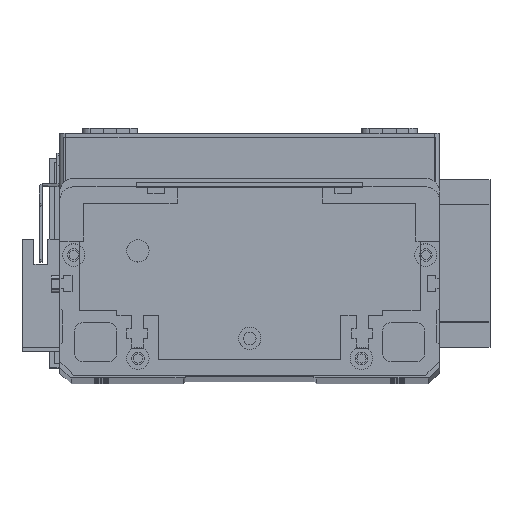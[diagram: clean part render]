
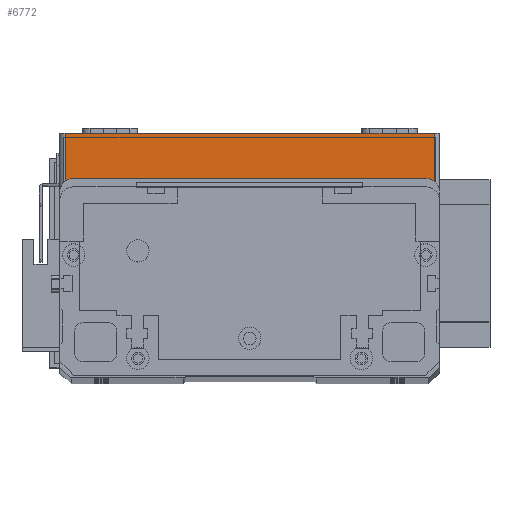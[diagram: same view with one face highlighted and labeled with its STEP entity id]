
A CAD part, top view. The second image highlights one B-rep face of the part: STEP entity #6772.
In plain terms, the highlighted planar face has unit normal (0, 0, 1) as drawn and (0, -1, 0) by its records, which use the part's own axes.
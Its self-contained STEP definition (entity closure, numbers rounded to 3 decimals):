
#947 = CARTESIAN_POINT ( 'NONE',  ( 0., 0., 0. ) ) ;
#1774 = VERTEX_POINT ( 'NONE', #18313 ) ;
#1813 = PLANE ( 'NONE',  #2132 ) ;
#2132 = AXIS2_PLACEMENT_3D ( 'NONE', #6298, #4123, #19907 ) ;
#2837 = CARTESIAN_POINT ( 'NONE',  ( 2., 0., 19.5 ) ) ;
#3972 = EDGE_CURVE ( 'NONE', #1774, #21245, #18675, .T. ) ;
#4123 = DIRECTION ( 'NONE',  ( 0., 1., 0. ) ) ;
#4269 = VERTEX_POINT ( 'NONE', #13280 ) ;
#4313 = EDGE_CURVE ( 'NONE', #14702, #1774, #28828, .T. ) ;
#4873 = CARTESIAN_POINT ( 'NONE',  ( 0., 0., 19.5 ) ) ;
#6022 = LINE ( 'NONE', #13290, #11303 ) ;
#6128 = ORIENTED_EDGE ( 'NONE', *, *, #3972, .T. ) ;
#6298 = CARTESIAN_POINT ( 'NONE',  ( 0., 0., 19.5 ) ) ;
#6772 = ADVANCED_FACE ( 'NONE', ( #21782 ), #1813, .F. ) ;
#10149 = ORIENTED_EDGE ( 'NONE', *, *, #4313, .T. ) ;
#11189 = EDGE_CURVE ( 'NONE', #21245, #4269, #6022, .T. ) ;
#11303 = VECTOR ( 'NONE', #15573, 1000. ) ;
#12662 = VECTOR ( 'NONE', #16763, 1000. ) ;
#13280 = CARTESIAN_POINT ( 'NONE',  ( 134., 0., 19.5 ) ) ;
#13290 = CARTESIAN_POINT ( 'NONE',  ( 134., 0., 19.5 ) ) ;
#13463 = ORIENTED_EDGE ( 'NONE', *, *, #18219, .F. ) ;
#14438 = CARTESIAN_POINT ( 'NONE',  ( 134., 0., 0. ) ) ;
#14702 = VERTEX_POINT ( 'NONE', #2837 ) ;
#15573 = DIRECTION ( 'NONE',  ( 0., 0., 1. ) ) ;
#15758 = DIRECTION ( 'NONE',  ( 0., 0., -1. ) ) ;
#16763 = DIRECTION ( 'NONE',  ( 1., 0., 0. ) ) ;
#17916 = CARTESIAN_POINT ( 'NONE',  ( 2., 0., 19.5 ) ) ;
#18219 = EDGE_CURVE ( 'NONE', #14702, #4269, #27068, .T. ) ;
#18313 = CARTESIAN_POINT ( 'NONE',  ( 2., 0., 0. ) ) ;
#18675 = LINE ( 'NONE', #947, #12662 ) ;
#19907 = DIRECTION ( 'NONE',  ( 0., 0., 1. ) ) ;
#21134 = VECTOR ( 'NONE', #25159, 1000. ) ;
#21245 = VERTEX_POINT ( 'NONE', #14438 ) ;
#21473 = VECTOR ( 'NONE', #15758, 1000. ) ;
#21782 = FACE_OUTER_BOUND ( 'NONE', #24133, .T. ) ;
#23867 = ORIENTED_EDGE ( 'NONE', *, *, #11189, .T. ) ;
#24133 = EDGE_LOOP ( 'NONE', ( #13463, #10149, #6128, #23867 ) ) ;
#25159 = DIRECTION ( 'NONE',  ( 1., 0., 0. ) ) ;
#27068 = LINE ( 'NONE', #4873, #21134 ) ;
#28828 = LINE ( 'NONE', #17916, #21473 ) ;
